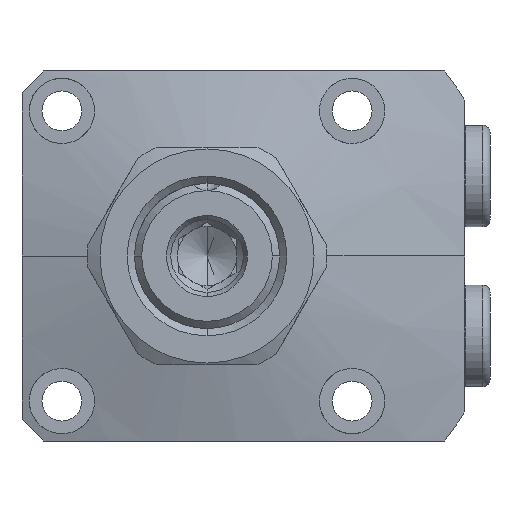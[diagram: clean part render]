
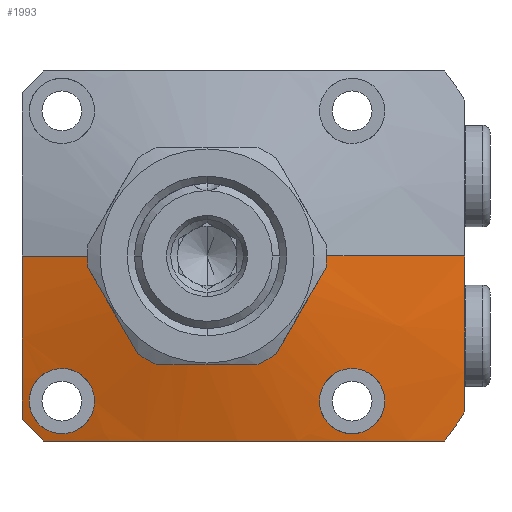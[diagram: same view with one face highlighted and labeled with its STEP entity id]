
A CAD part, left-side view. The second image highlights one B-rep face of the part: STEP entity #1993.
In plain terms, the highlighted conical face has half-angle 75 degrees and reference radius 15 mm.
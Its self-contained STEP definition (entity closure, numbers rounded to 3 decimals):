
#867=CONICAL_SURFACE('',#6156,15.,75.);
#940=B_SPLINE_CURVE_WITH_KNOTS('',3,(#9119,#9120,#9121,#9122,#9123,#9124,
#9125,#9126,#9127,#9128),.UNSPECIFIED.,.F.,.F.,(4,2,2,2,4),(0.,0.25,0.5,
0.75,1.),.UNSPECIFIED.);
#942=B_SPLINE_CURVE_WITH_KNOTS('',3,(#9155,#9156,#9157,#9158,#9159,#9160,
#9161,#9162,#9163,#9164),.UNSPECIFIED.,.F.,.F.,(4,2,2,2,4),(0.,0.25,0.5,
0.75,1.),.UNSPECIFIED.);
#955=B_SPLINE_CURVE_WITH_KNOTS('',3,(#9563,#9564,#9565,#9566,#9567,#9568,
#9569,#9570,#9571,#9572),.UNSPECIFIED.,.F.,.F.,(4,2,2,2,4),(0.,0.25,0.5,
0.75,1.),.UNSPECIFIED.);
#956=B_SPLINE_CURVE_WITH_KNOTS('',3,(#9586,#9587,#9588,#9589),
 .UNSPECIFIED.,.F.,.F.,(4,4),(0.,1.),.UNSPECIFIED.);
#957=B_SPLINE_CURVE_WITH_KNOTS('',3,(#9621,#9622,#9623,#9624),
 .UNSPECIFIED.,.F.,.F.,(4,4),(0.,1.),.UNSPECIFIED.);
#958=B_SPLINE_CURVE_WITH_KNOTS('',3,(#9626,#9627,#9628,#9629),
 .UNSPECIFIED.,.F.,.F.,(4,4),(0.,1.),.UNSPECIFIED.);
#959=B_SPLINE_CURVE_WITH_KNOTS('',3,(#9631,#9632,#9633,#9634,#9635,#9636,
#9637,#9638,#9639,#9640),.UNSPECIFIED.,.F.,.F.,(4,2,2,2,4),(0.,0.25,0.5,
0.75,1.),.UNSPECIFIED.);
#960=B_SPLINE_CURVE_WITH_KNOTS('',3,(#9641,#9642,#9643,#9644,#9645,#9646,
#9647,#9648,#9649,#9650),.UNSPECIFIED.,.F.,.F.,(4,2,2,2,4),(0.,0.25,0.5,
0.75,1.),.UNSPECIFIED.);
#1181=FACE_BOUND('',#2658,.T.);
#1182=FACE_BOUND('',#2659,.T.);
#1183=FACE_BOUND('',#2660,.T.);
#1483=LINE('',#9388,#1736);
#1484=LINE('',#9416,#1737);
#1736=VECTOR('',#7239,1.);
#1737=VECTOR('',#7242,1.);
#1993=ADVANCED_FACE('',(#1181,#1182,#1183),#867,.T.);
#2658=EDGE_LOOP('',(#3551,#3552,#3553,#3554,#3555,#3556,#3557,#3558));
#2659=EDGE_LOOP('',(#3559,#3560));
#2660=EDGE_LOOP('',(#3561,#3562));
#3551=ORIENTED_EDGE('',*,*,#5087,.F.);
#3552=ORIENTED_EDGE('',*,*,#5157,.F.);
#3553=ORIENTED_EDGE('',*,*,#5093,.T.);
#3554=ORIENTED_EDGE('',*,*,#5158,.T.);
#3555=ORIENTED_EDGE('',*,*,#5159,.T.);
#3556=ORIENTED_EDGE('',*,*,#5133,.T.);
#3557=ORIENTED_EDGE('',*,*,#5160,.T.);
#3558=ORIENTED_EDGE('',*,*,#5140,.T.);
#3559=ORIENTED_EDGE('',*,*,#5161,.F.);
#3560=ORIENTED_EDGE('',*,*,#4996,.F.);
#3561=ORIENTED_EDGE('',*,*,#5162,.F.);
#3562=ORIENTED_EDGE('',*,*,#5004,.F.);
#4468=VERTEX_POINT('',#9118);
#4469=VERTEX_POINT('',#9129);
#4476=VERTEX_POINT('',#9154);
#4477=VERTEX_POINT('',#9165);
#4538=VERTEX_POINT('',#9386);
#4539=VERTEX_POINT('',#9387);
#4540=VERTEX_POINT('',#9389);
#4545=VERTEX_POINT('',#9415);
#4579=VERTEX_POINT('',#9557);
#4582=VERTEX_POINT('',#9562);
#4583=VERTEX_POINT('',#9581);
#4587=VERTEX_POINT('',#9625);
#4996=EDGE_CURVE('',#4468,#4469,#940,.T.);
#5004=EDGE_CURVE('',#4476,#4477,#942,.T.);
#5087=EDGE_CURVE('',#4538,#4540,#1483,.T.);
#5093=EDGE_CURVE('',#4539,#4545,#1484,.T.);
#5133=EDGE_CURVE('',#4579,#4582,#955,.T.);
#5140=EDGE_CURVE('',#4583,#4540,#956,.T.);
#5157=EDGE_CURVE('',#4539,#4538,#5635,.T.);
#5158=EDGE_CURVE('',#4545,#4587,#957,.T.);
#5159=EDGE_CURVE('',#4587,#4579,#958,.T.);
#5160=EDGE_CURVE('',#4582,#4583,#5636,.T.);
#5161=EDGE_CURVE('',#4469,#4468,#959,.T.);
#5162=EDGE_CURVE('',#4477,#4476,#960,.T.);
#5635=CIRCLE('',#6153,15.);
#5636=CIRCLE('',#6155,41.5);
#6153=AXIS2_PLACEMENT_3D('',#9619,#7380,#7381);
#6155=AXIS2_PLACEMENT_3D('',#9630,#7384,#7385);
#6156=AXIS2_PLACEMENT_3D('',#9651,#7386,#7387);
#7239=DIRECTION('',(0.259,-0.966,0.));
#7242=DIRECTION('',(0.259,0.966,0.));
#7380=DIRECTION('',(-1.,0.,0.));
#7381=DIRECTION('',(0.,-1.,0.));
#7384=DIRECTION('',(-1.,0.,0.));
#7385=DIRECTION('',(0.,-1.,0.));
#7386=DIRECTION('',(1.,0.,0.));
#7387=DIRECTION('',(0.,-1.,0.));
#9118=CARTESIAN_POINT('',(-23.545,24.5,-20.));
#9119=CARTESIAN_POINT('',(-23.545,24.5,-20.));
#9120=CARTESIAN_POINT('',(-23.343,24.5,-21.192));
#9121=CARTESIAN_POINT('',(-23.232,24.004,-22.376));
#9122=CARTESIAN_POINT('',(-23.237,22.301,-24.047));
#9123=CARTESIAN_POINT('',(-23.355,21.101,-24.52));
#9124=CARTESIAN_POINT('',(-23.763,18.739,-24.478));
#9125=CARTESIAN_POINT('',(-24.051,17.594,-23.976));
#9126=CARTESIAN_POINT('',(-24.666,15.971,-22.317));
#9127=CARTESIAN_POINT('',(-24.989,15.5,-21.182));
#9128=CARTESIAN_POINT('',(-25.239,15.5,-20.));
#9129=CARTESIAN_POINT('',(-25.239,15.5,-20.));
#9154=CARTESIAN_POINT('',(-25.239,-15.5,-20.));
#9155=CARTESIAN_POINT('',(-25.239,-15.5,-20.));
#9156=CARTESIAN_POINT('',(-24.989,-15.5,-21.183));
#9157=CARTESIAN_POINT('',(-24.665,-15.974,-22.32));
#9158=CARTESIAN_POINT('',(-24.052,-17.591,-23.973));
#9159=CARTESIAN_POINT('',(-23.763,-18.741,-24.477));
#9160=CARTESIAN_POINT('',(-23.357,-21.088,-24.522));
#9161=CARTESIAN_POINT('',(-23.238,-22.291,-24.054));
#9162=CARTESIAN_POINT('',(-23.232,-24.005,-22.377));
#9163=CARTESIAN_POINT('',(-23.343,-24.5,-21.193));
#9164=CARTESIAN_POINT('',(-23.545,-24.5,-20.));
#9165=CARTESIAN_POINT('',(-23.545,-24.5,-20.));
#9386=CARTESIAN_POINT('',(-28.,-15.,0.));
#9387=CARTESIAN_POINT('',(-28.,15.,0.));
#9388=CARTESIAN_POINT('',(-28.,-15.,0.));
#9389=CARTESIAN_POINT('',(-22.507,-35.5,0.));
#9415=CARTESIAN_POINT('',(-25.187,25.5,0.));
#9416=CARTESIAN_POINT('',(-28.,15.,0.));
#9557=CARTESIAN_POINT('',(-22.907,22.5,-25.5));
#9562=CARTESIAN_POINT('',(-20.899,-32.741,-25.5));
#9563=CARTESIAN_POINT('',(-22.907,22.5,-25.5));
#9564=CARTESIAN_POINT('',(-23.719,17.919,-25.5));
#9565=CARTESIAN_POINT('',(-24.398,13.332,-25.5));
#9566=CARTESIAN_POINT('',(-25.196,4.134,-25.5));
#9567=CARTESIAN_POINT('',(-25.294,-0.478,-25.5));
#9568=CARTESIAN_POINT('',(-24.808,-9.732,-25.5));
#9569=CARTESIAN_POINT('',(-24.237,-14.383,-25.5));
#9570=CARTESIAN_POINT('',(-22.763,-23.596,-25.5));
#9571=CARTESIAN_POINT('',(-21.865,-28.175,-25.5));
#9572=CARTESIAN_POINT('',(-20.899,-32.741,-25.5));
#9581=CARTESIAN_POINT('',(-20.899,-35.5,-21.494));
#9586=CARTESIAN_POINT('',(-20.899,-35.5,-21.494));
#9587=CARTESIAN_POINT('',(-21.889,-35.5,-14.363));
#9588=CARTESIAN_POINT('',(-22.507,-35.5,-7.205));
#9589=CARTESIAN_POINT('',(-22.507,-35.5,0.));
#9619=CARTESIAN_POINT('',(-28.,0.,0.));
#9621=CARTESIAN_POINT('',(-25.187,25.5,0.));
#9622=CARTESIAN_POINT('',(-25.187,25.5,-7.577));
#9623=CARTESIAN_POINT('',(-24.227,25.5,-15.057));
#9624=CARTESIAN_POINT('',(-22.907,25.5,-22.5));
#9625=CARTESIAN_POINT('',(-22.907,25.5,-22.5));
#9626=CARTESIAN_POINT('',(-22.907,25.5,-22.5));
#9627=CARTESIAN_POINT('',(-22.931,24.5,-23.5));
#9628=CARTESIAN_POINT('',(-22.931,23.5,-24.5));
#9629=CARTESIAN_POINT('',(-22.907,22.5,-25.5));
#9630=CARTESIAN_POINT('',(-20.899,0.,0.));
#9631=CARTESIAN_POINT('',(-25.239,15.5,-20.));
#9632=CARTESIAN_POINT('',(-25.49,15.5,-18.815));
#9633=CARTESIAN_POINT('',(-25.649,15.992,-17.631));
#9634=CARTESIAN_POINT('',(-25.643,17.694,-15.955));
#9635=CARTESIAN_POINT('',(-25.477,18.892,-15.483));
#9636=CARTESIAN_POINT('',(-24.972,21.244,-15.518));
#9637=CARTESIAN_POINT('',(-24.646,22.382,-16.009));
#9638=CARTESIAN_POINT('',(-24.032,24.016,-17.661));
#9639=CARTESIAN_POINT('',(-23.747,24.5,-18.806));
#9640=CARTESIAN_POINT('',(-23.545,24.5,-20.));
#9641=CARTESIAN_POINT('',(-23.545,-24.5,-20.));
#9642=CARTESIAN_POINT('',(-23.747,-24.5,-18.806));
#9643=CARTESIAN_POINT('',(-24.033,-24.013,-17.658));
#9644=CARTESIAN_POINT('',(-24.645,-22.385,-16.012));
#9645=CARTESIAN_POINT('',(-24.973,-21.239,-15.52));
#9646=CARTESIAN_POINT('',(-25.474,-18.907,-15.482));
#9647=CARTESIAN_POINT('',(-25.643,-17.706,-15.946));
#9648=CARTESIAN_POINT('',(-25.65,-15.991,-17.63));
#9649=CARTESIAN_POINT('',(-25.49,-15.5,-18.815));
#9650=CARTESIAN_POINT('',(-25.239,-15.5,-20.));
#9651=CARTESIAN_POINT('',(-28.,0.,0.));
